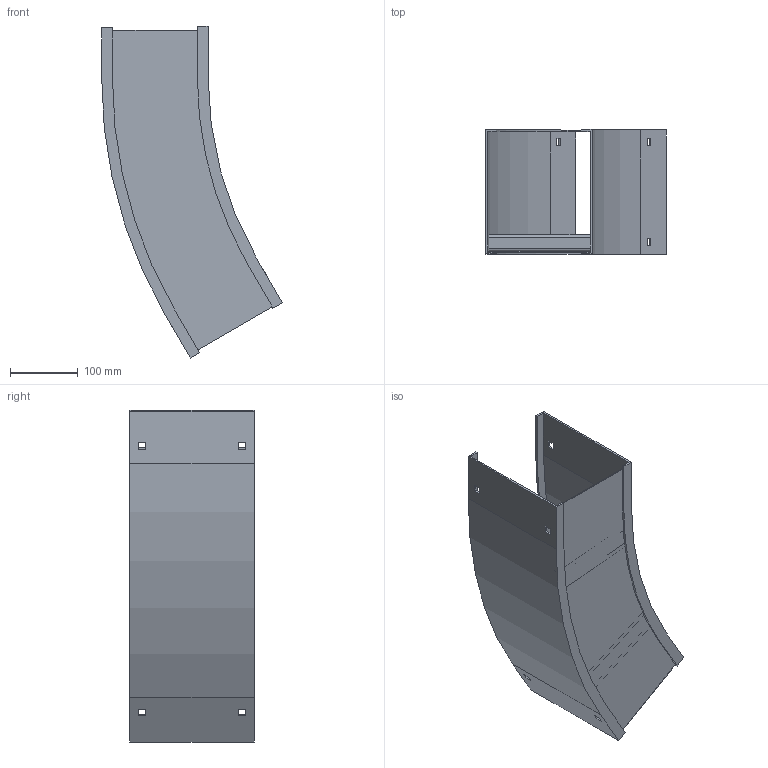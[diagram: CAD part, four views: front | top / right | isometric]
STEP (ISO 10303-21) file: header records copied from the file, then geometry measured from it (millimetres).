
FILE_DESCRIPTION((''),'2;1');
FILE_NAME('AUF706SHB3024_ASM','2010-02-01T',('erouzier'),(''),'PRO/ENGINEER BY PARAMETRIC TECHNOLOGY CORPORATION, 2008510','PRO/ENGINEER BY PARAMETRIC TECHNOLOGY CORPORATION, 2008510','');
FILE_SCHEMA(('CONFIG_CONTROL_DESIGN'));
Length unit declared in the file: inch
Products named in the file (5): CDS001322-7-30-21-I; CDS001322-7-30-27-O; CDS002159L6; CDS003641-6-24-30; AUF706SHB3024_ASM
Assembly tree (5 placements, depth 2):
  AUF706SHB3024_ASM
    CDS001322-7-30-21-I
    CDS001322-7-30-27-O
    CDS002159L6  x2
    CDS003641-6-24-30
Bounding box: 266.8 x 183.9 x 490.68 mm (x, y, z)
Volume: 665898 mm3; surface area: 616863.5 mm2
Topology: 5 solids, 5 shells, 138 faces, 384 edges, 256 vertices
Faces by surface type: plane 106, cylinder 32
Entity records: 3605 total; most frequent: CARTESIAN_POINT 618, ORIENTED_EDGE 600, DIRECTION 578, EDGE_CURVE 300, VECTOR 258, LINE 258, VERTEX_POINT 200, AXIS2_PLACEMENT_3D 160
